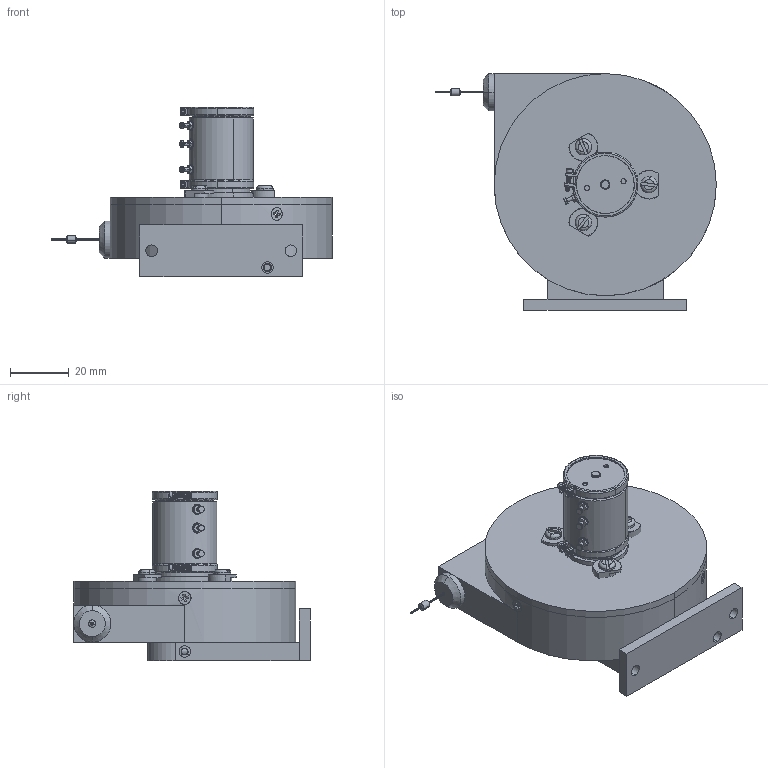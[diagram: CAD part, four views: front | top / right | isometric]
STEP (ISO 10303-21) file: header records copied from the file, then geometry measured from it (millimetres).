
FILE_DESCRIPTION (( 'STEP AP214' ), '1' );
FILE_NAME ('162 SERIES-GUIDE-NO SENSOR COVER.STEP', '2016-12-09T16:39:42', ( 'setup' ), ( '' ), 'SwSTEP 2.0', 'SolidWorks 2015', '' );
FILE_SCHEMA (( 'AUTOMOTIVE_DESIGN' ));
Length unit declared in the file: inch
Products named in the file (2): 162 SERIES-GUIDE-NO SENSOR COVER
Bounding box: 95.94 x 80.9 x 58.02 mm (x, y, z)
Surface area: 27507.9 mm2 (no closed solid volume)
Topology: 0 solids, 59 shells, 519 faces, 2202 edges, 1728 vertices
Faces by surface type: plane 198, cylinder 195, bspline 49, torus 47, cone 26, sphere 4
Entity records: 55388 total; most frequent: CARTESIAN_POINT 32221, ORIENTED_EDGE 3207, DIRECTION 2922, EDGE_CURVE 2195, VERTEX_POINT 1728, LINE 1050, VECTOR 1050, AXIS2_PLACEMENT_3D 936
